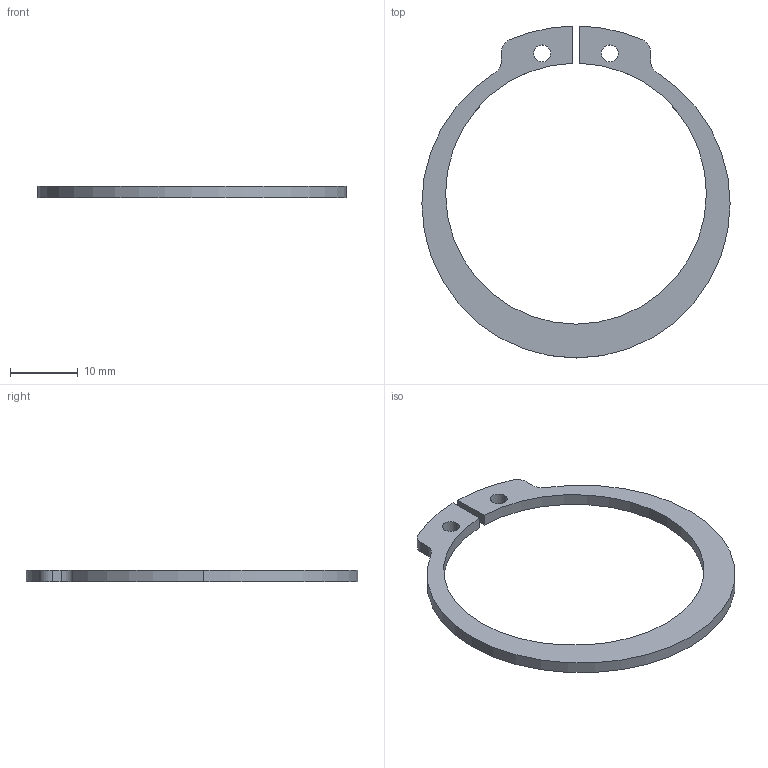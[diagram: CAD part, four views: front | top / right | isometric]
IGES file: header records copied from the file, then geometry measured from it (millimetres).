
Start section: START RECORD GO HERE.
Global section: file name: 553S-R42.igs; native system: DASSAULT SYSTEMES CATIA V5 R20 - www.3ds.com; preprocessor: CATIA Version 5 Release 20 ; author: Utente; organization: NB04-ASUS; date: 20210421.111615; units: millimetre
Bounding box: 45.5 x 48.99 x 1.75 mm (x, y, z)
Surface area: 1565.9 mm2 (no closed solid volume)
Topology: 0 solids, 0 shells, 22 faces, 120 edges, 120 vertices
Faces by surface type: revolution 16, plane 6
